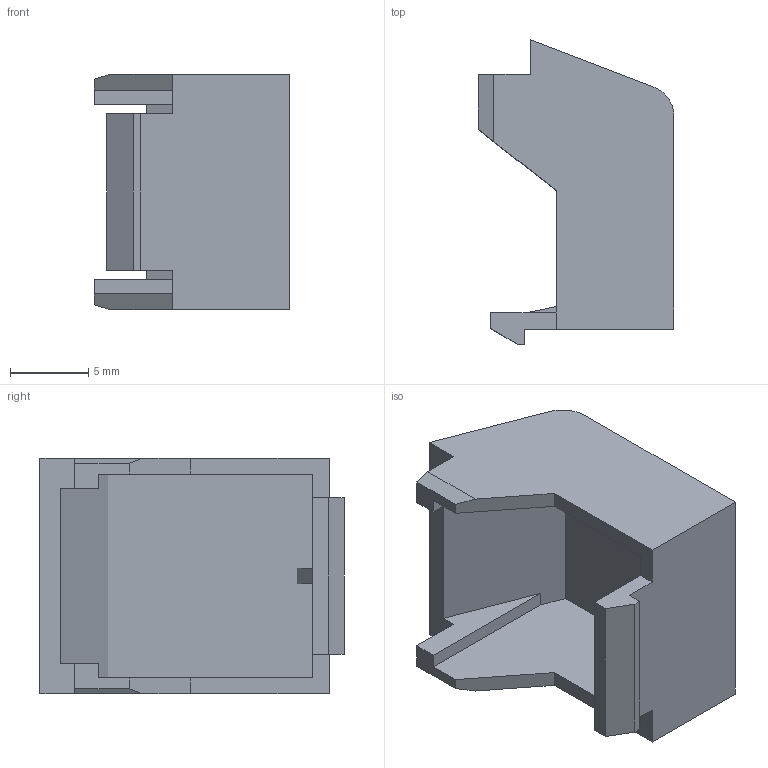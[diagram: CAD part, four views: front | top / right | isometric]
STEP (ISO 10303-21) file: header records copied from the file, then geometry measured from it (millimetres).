
FILE_DESCRIPTION(('FreeCAD Model'),'2;1');
FILE_NAME('Open CASCADE Shape Model','2023-04-26T11:28:42',('Author'),( ''),'Open CASCADE STEP processor 7.6','FreeCAD','Unknown');
FILE_SCHEMA(('AUTOMOTIVE_DESIGN { 1 0 10303 214 1 1 1 1 }'));
Length unit declared in the file: millimetre
Products named in the file (1): CPME-TC03
Bounding box: 12.5 x 19.42 x 15 mm (x, y, z)
Volume: 841 mm3; surface area: 1593.8 mm2
Topology: 1 solids, 1 shells, 36 faces, 102 edges, 68 vertices
Faces by surface type: plane 35, cylinder 1
Entity records: 2502 total; most frequent: CARTESIAN_POINT 423, DIRECTION 380, LINE 302, VECTOR 302, ORIENTED_EDGE 204, PCURVE 204, DEFINITIONAL_REPRESENTATION 204, EDGE_CURVE 102
